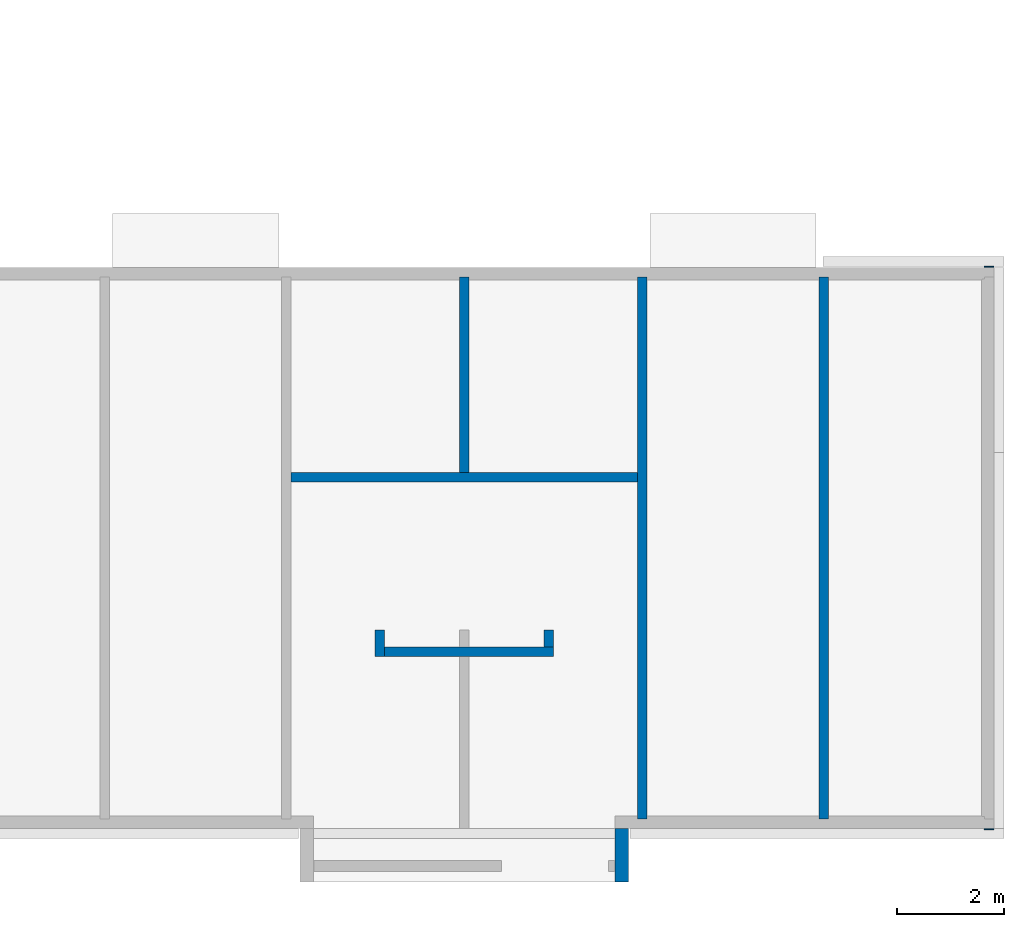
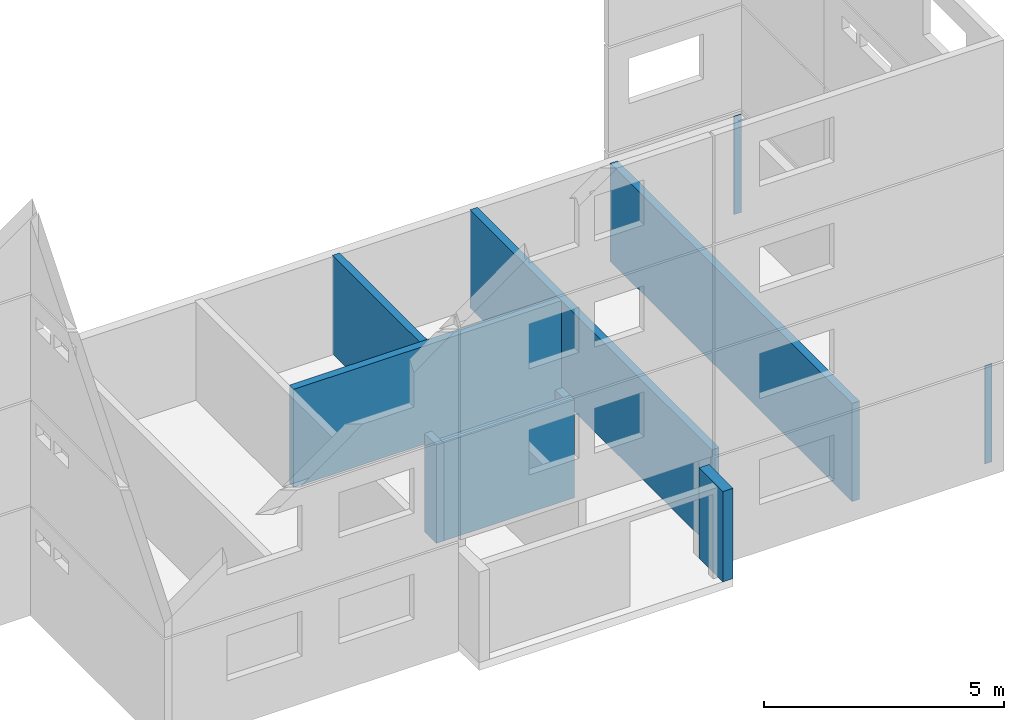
# One storey, part 5 of 15: 10 walls.
"""IFC2X3 building model written with IfcOpenShell, lengths in metres."""

from ifc_helpers import new_model, si_unit, frame, frame_2d, origin, origin_with_axes, place, context, project, spatial, rectangle, extrude, element, save


model = new_model("IFC2X3")

# Units and contexts
model_context = context("Model", 3, precision=1e-06, world=origin())
ifc_project = project(units=[si_unit("LENGTHUNIT", "METRE"), si_unit("PLANEANGLEUNIT", "RADIAN")], contexts=[model_context])

# Site, building, storey
site = spatial("IfcSite", under=ifc_project, CompositionType="ELEMENT")
building = spatial("IfcBuilding", under=site, CompositionType="ELEMENT")
storey = spatial("IfcBuildingStorey", under=building, Name="rdc", CompositionType="ELEMENT", Elevation=0.0)

# Walls
placement = place(None, origin())
wall_1_placement = place(placement, frame((51.169999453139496, -1.879922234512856, 0.0), z_axis=(0.0, 0.0, 1.0), x_axis=(0.0, -1.0, 0.0)))
element("IfcWall", 1, at=wall_1_placement, inside=storey, context=model_context, shape_type="SweptSolid", body=[
    extrude(rectangle(XDim=0.32, YDim=0.18, at=frame_2d((0.16, 0.09), x_axis=(1.0, 0.0)), kind="CURVE"), origin_with_axes(), (0.0, 0.0, 1.0), 2.5),
])
wall_2_placement = place(placement, frame((56.469999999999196, -5.399837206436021, 0.0), z_axis=(0.0, 0.0, 1.0), x_axis=(0.0, 1.0, 0.0)))
element("IfcWall", 2, at=wall_2_placement, inside=storey, context=model_context, shape_type="SweptSolid", body=[
    extrude(rectangle(XDim=10.08991497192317, YDim=0.18, at=frame_2d((5.044957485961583, 0.09), x_axis=(1.0, 0.0)), kind="CURVE"), origin_with_axes(), (0.0, 0.0, 1.0), 2.5),
])
wall_3_placement = place(placement, frame((53.08999993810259, -5.399837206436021, 0.0), z_axis=(0.0, 0.0, 1.0), x_axis=(0.0, 1.0, 0.0)))
element("IfcWall", 3, at=wall_3_placement, inside=storey, context=model_context, shape_type="SweptSolid", body=[
    extrude(rectangle(XDim=10.08991497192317, YDim=0.18, at=frame_2d((5.044957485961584, 0.09), x_axis=(1.0, 0.0)), kind="CURVE"), origin_with_axes(), (0.0, 0.0, 1.0), 2.5),
])
wall_4_placement = place(placement, frame((59.54999999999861, 4.870077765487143, 0.0), z_axis=(0.0, 0.0, 1.0), x_axis=(-1.0, 0.0, 0.0)))
element("IfcWall", 4, at=wall_4_placement, inside=storey, context=model_context, shape_type="SweptSolid", body=[
    extrude(rectangle(XDim=0.18, YDim=0.020000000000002, at=frame_2d((0.09, 0.010000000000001), x_axis=(1.0, 0.0)), kind="CURVE"), frame((0.0, -0.020000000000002, 0.0), z_axis=(0.0, 0.0, 1.0), x_axis=(1.0, 0.0, 0.0)), (0.0, 0.0, 1.0), 2.5),
])
wall_5_placement = place(placement, frame((51.3499994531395, -2.199922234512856, 0.0), z_axis=(0.0, 0.0, 1.0), x_axis=(-1.0, 0.0, 0.0)))
element("IfcWall", 5, at=wall_5_placement, inside=storey, context=model_context, shape_type="SweptSolid", body=[
    extrude(rectangle(XDim=3.150000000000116, YDim=0.18, at=frame_2d((1.575000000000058, 0.09), x_axis=(1.0, 0.0)), kind="CURVE"), origin_with_axes(), (0.0, 0.0, 1.0), 2.5),
])
wall_6_placement = place(placement, frame((59.549999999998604, -5.599999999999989, 0.0), z_axis=(0.0, 0.0, 1.0), x_axis=(-1.0, 0.0, 0.0)))
element("IfcWall", 6, at=wall_6_placement, inside=storey, context=model_context, shape_type="SweptSolid", body=[
    extrude(rectangle(XDim=0.18, YDim=0.020162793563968, at=frame_2d((0.09, 0.010081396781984), x_axis=(1.0, 0.0)), kind="CURVE"), frame((0.0, -0.020162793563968, 0.0), z_axis=(0.0, 0.0, 1.0), x_axis=(1.0, 0.0, 0.0)), (0.0, 0.0, 1.0), 2.5),
])
wall_7_placement = place(placement, frame((48.199999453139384, -2.379922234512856, 0.0), z_axis=(0.0, 0.0, 1.0), x_axis=(0.0, 1.0, 0.0)))
element("IfcWall", 7, at=wall_7_placement, inside=storey, context=model_context, shape_type="SweptSolid", body=[
    extrude(rectangle(XDim=0.5, YDim=0.18, at=frame_2d((0.25, 0.09), x_axis=(1.0, 0.0)), kind="CURVE"), origin_with_axes(), (0.0, 0.0, 1.0), 2.5),
])
wall_8_placement = place(placement, frame((52.90999947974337, 1.050077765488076, 0.0), z_axis=(0.0, 0.0, 1.0), x_axis=(-1.0, 0.0, 0.0)))
element("IfcWall", 8, at=wall_8_placement, inside=storey, context=model_context, shape_type="SweptSolid", body=[
    extrude(rectangle(XDim=6.449999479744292, YDim=0.18, at=frame_2d((3.224999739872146, 0.09), x_axis=(1.0, 0.0)), kind="CURVE"), origin_with_axes(), (0.0, 0.0, 1.0), 2.5),
])
wall_9_placement = place(placement, frame((52.49499999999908, -5.579837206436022, 0.0), z_axis=(0.0, 0.0, 1.0), x_axis=(0.0, -1.0, 0.0)))
element("IfcWall", 9, at=wall_9_placement, inside=storey, context=model_context, shape_type="SweptSolid", body=[
    extrude(rectangle(XDim=0.999999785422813, YDim=0.25, at=frame_2d((0.499999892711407, 0.125), x_axis=(1.0, 0.0)), kind="CURVE"), origin_with_axes(), (0.0, 0.0, 1.0), 2.300000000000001),
])
wall_10_placement = place(placement, frame((49.77499999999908, 1.050077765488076, 0.0), z_axis=(0.0, 0.0, 1.0), x_axis=(0.0, 1.0, 0.0)))
element("IfcWall", 10, at=wall_10_placement, inside=storey, context=model_context, shape_type="SweptSolid", body=[
    extrude(rectangle(XDim=3.639999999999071, YDim=0.18, at=frame_2d((1.819999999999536, 0.09), x_axis=(1.0, 0.0)), kind="CURVE"), origin_with_axes(), (0.0, 0.0, 1.0), 2.5),
])

save(model, "model.ifc")
